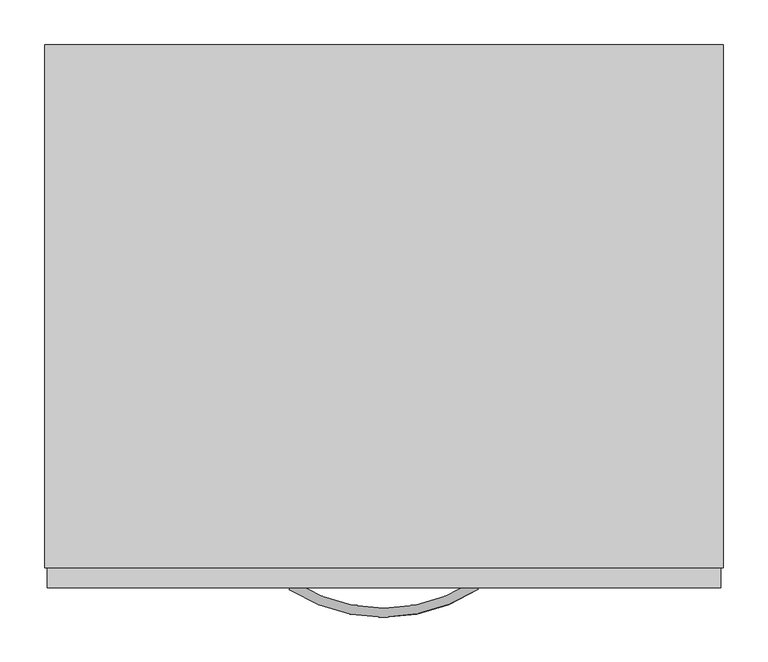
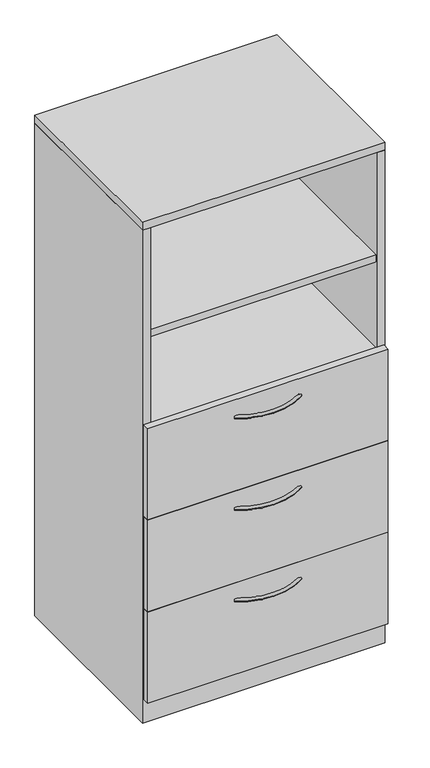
"""IFC4 building model written with IfcOpenShell, lengths in millimetres: furniture geometry, Steelcase - Universal Storage - Cabinet - Combination - Proud Steel : 65 1/2H - Open Cabinet/3 Drawers - 24D x 30W."""

from ifc_helpers import new_model, si_unit, point, frame, origin, place, context, project, spatial, polyline, circle_curve, ellipse_curve, trimmed, outline, extrude, faceted_brep, source, transform, mapped, element, save
from ifc_brep_helpers import plane_surface, revolved_surface, advanced_brep


def furniture_0acd6672(model_context):
    return source(origin(), model_context, "Body", "SolidModel", [
        extrude(outline(polyline([(736.6000242, 104.6479992), (736.6000242, -454.0250121), (25.4000008, -454.0250121), (25.4000008, 104.6479992), (736.6000242, 104.6479992)])), frame((0.0, 0.0, 965.2000242), z_axis=(0.0, 0.0, 1.0), x_axis=(1.0, 0.0, 0.0)), (0.0, 0.0, 1.0), 22.2249516),
        extrude(outline(polyline([(736.6000242, 104.6479992), (736.6000242, -454.0250121), (25.4000008, -454.0250121), (25.4000008, 104.6479992), (736.6000242, 104.6479992)])), frame((0.0, 0.0, 1273.1750484), z_axis=(0.0, 0.0, 1.0), x_axis=(1.0, 0.0, 0.0)), (0.0, 0.0, 1.0), 22.2249516),
        advanced_brep(
        [(274.4245932, -481.5705994, 323.56425), (279.8977519, -473.0108019, 323.56425), (486.7315136, -481.1337636, 323.56425), (481.2231767, -472.5965612, 323.56425)],
        [
            (0, 1, circle_curve(frame((277.1611726, -477.2907007, 323.56425), z_axis=(-0.8424997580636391, 0.5386967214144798, 0.0), x_axis=(0.5386967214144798, 0.8424997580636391, 0.0)), 5.08)),
            (1, 0, circle_curve(frame((277.1611726, -477.2907007, 323.56425), z_axis=(-0.8424997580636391, 0.5386967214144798, 0.0), x_axis=(0.5386967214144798, 0.8424997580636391, 0.0)), 5.08)),
            (2, 3, circle_curve(frame((483.9773452, -476.8651624, 323.56425), z_axis=(0.8402758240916, 0.5421591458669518, 0.0), x_axis=(-0.5421591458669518, 0.8402758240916, 0.0)), 5.08)),
            (3, 2, circle_curve(frame((483.9773452, -476.8651624, 323.56425), z_axis=(0.8402758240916, 0.5421591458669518, 0.0), x_axis=(-0.5421591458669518, 0.8402758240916, 0.0)), 5.08)),
            (3, 1, circle_curve(frame((380.2380004, -316.0827352, 323.56425), z_axis=(0.0, 0.0, -1.0), x_axis=(-0.5386967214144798, -0.8424997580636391, 0.0)), 186.2648211)),
            (0, 2, circle_curve(frame((380.2380004, -316.0827352, 323.56425), z_axis=(0.0, 0.0, 1.0), x_axis=(-0.5386967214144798, -0.8424997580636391, 0.0)), 196.4248211)),
        ],
        [
            plane_surface(frame((277.5794521, -476.6365286, 324.358), z_axis=(-0.8424997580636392, 0.5386967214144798, 0.0), x_axis=(0.0, 0.0, 1.0))),
            plane_surface(frame((483.5563772, -476.2127171, 324.358), z_axis=(0.8402758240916, 0.5421591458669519, 0.0), x_axis=(0.0, 0.0, 1.0))),
            revolved_surface(trimmed(ellipse_curve(frame((277.1611726, -477.2907007, 323.56425), z_axis=(-0.8424997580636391, 0.5386967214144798, 0.0), x_axis=(0.5386967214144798, 0.8424997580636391, 0.0)), 5.08, 5.08), [point((274.4245932, -481.5705994, 323.56425))], [point((279.8977519, -473.0108019, 323.56425))], True, "CARTESIAN"), (380.2380004, -316.0827352, 324.358), (0.0, 0.0, 1.0)),
            revolved_surface(trimmed(ellipse_curve(frame((277.1611726, -477.2907007, 323.56425), z_axis=(-0.8424997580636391, 0.5386967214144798, 0.0), x_axis=(0.5386967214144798, 0.8424997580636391, 0.0)), 5.08, 5.08), [point((279.8977519, -473.0108019, 323.56425))], [point((274.4245932, -481.5705994, 323.56425))], True, "CARTESIAN"), (380.2380004, -316.0827352, 324.358), (0.0, 0.0, 1.0)),
        ],
        [
            (0, [[1, 2]]),
            (1, [[3, 4]]),
            (2, [[5, -1, 6, -4]]),
            (3, [[-6, -2, -5, -3]]),
        ],
    ),
        advanced_brep(
        [(274.4245932, -481.5705994, 627.85625), (279.8977519, -473.0108019, 627.85625), (486.7315136, -481.1337636, 627.85625), (481.2231767, -472.5965612, 627.85625)],
        [
            (0, 1, circle_curve(frame((277.1611726, -477.2907007, 627.85625), z_axis=(-0.8424997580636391, 0.5386967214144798, 0.0), x_axis=(0.5386967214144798, 0.8424997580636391, 0.0)), 5.08)),
            (1, 0, circle_curve(frame((277.1611726, -477.2907007, 627.85625), z_axis=(-0.8424997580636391, 0.5386967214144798, 0.0), x_axis=(0.5386967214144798, 0.8424997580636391, 0.0)), 5.08)),
            (2, 3, circle_curve(frame((483.9773452, -476.8651624, 627.85625), z_axis=(0.8402758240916, 0.5421591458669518, 0.0), x_axis=(-0.5421591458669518, 0.8402758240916, 0.0)), 5.08)),
            (3, 2, circle_curve(frame((483.9773452, -476.8651624, 627.85625), z_axis=(0.8402758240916, 0.5421591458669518, 0.0), x_axis=(-0.5421591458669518, 0.8402758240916, 0.0)), 5.08)),
            (3, 1, circle_curve(frame((380.2380004, -316.0827352, 627.85625), z_axis=(0.0, 0.0, -1.0), x_axis=(-0.5386967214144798, -0.8424997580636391, 0.0)), 186.2648211)),
            (0, 2, circle_curve(frame((380.2380004, -316.0827352, 627.85625), z_axis=(0.0, 0.0, 1.0), x_axis=(-0.5386967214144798, -0.8424997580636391, 0.0)), 196.4248211)),
        ],
        [
            plane_surface(frame((277.5794521, -476.6365286, 628.65), z_axis=(-0.8424997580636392, 0.5386967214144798, 0.0), x_axis=(0.0, 0.0, 1.0))),
            plane_surface(frame((483.5563772, -476.2127171, 628.65), z_axis=(0.8402758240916, 0.5421591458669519, 0.0), x_axis=(0.0, 0.0, 1.0))),
            revolved_surface(trimmed(ellipse_curve(frame((277.1611726, -477.2907007, 627.85625), z_axis=(-0.8424997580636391, 0.5386967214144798, 0.0), x_axis=(0.5386967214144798, 0.8424997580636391, 0.0)), 5.08, 5.08), [point((274.4245932, -481.5705994, 627.85625))], [point((279.8977519, -473.0108019, 627.85625))], True, "CARTESIAN"), (380.2380004, -316.0827352, 628.65), (0.0, 0.0, 1.0)),
            revolved_surface(trimmed(ellipse_curve(frame((277.1611726, -477.2907007, 627.85625), z_axis=(-0.8424997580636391, 0.5386967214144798, 0.0), x_axis=(0.5386967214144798, 0.8424997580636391, 0.0)), 5.08, 5.08), [point((279.8977519, -473.0108019, 627.85625))], [point((274.4245932, -481.5705994, 627.85625))], True, "CARTESIAN"), (380.2380004, -316.0827352, 628.65), (0.0, 0.0, 1.0)),
        ],
        [
            (0, [[1, 2]]),
            (1, [[3, 4]]),
            (2, [[5, -1, 6, -4]]),
            (3, [[-6, -2, -5, -3]]),
        ],
    ),
        extrude(outline(polyline([(758.8225413, -479.552), (3.1725353, -479.552), (3.1725353, -457.3261219), (758.8225413, -457.3261219), (758.8225413, -479.552)])), frame((0.0, 0.0, 687.3240349), z_axis=(0.0, 0.0, 1.0), x_axis=(1.0, 0.0, 0.0)), (0.0, 0.0, 1.0), 303.2759651),
        advanced_brep(
        [(274.4245932, -481.5705994, 932.65625), (279.8977519, -473.0108019, 932.65625), (486.7315136, -481.1337636, 932.65625), (481.2231767, -472.5965612, 932.65625)],
        [
            (0, 1, circle_curve(frame((277.1611726, -477.2907007, 932.65625), z_axis=(-0.8424997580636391, 0.5386967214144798, 0.0), x_axis=(0.5386967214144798, 0.8424997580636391, 0.0)), 5.08)),
            (1, 0, circle_curve(frame((277.1611726, -477.2907007, 932.65625), z_axis=(-0.8424997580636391, 0.5386967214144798, 0.0), x_axis=(0.5386967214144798, 0.8424997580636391, 0.0)), 5.08)),
            (2, 3, circle_curve(frame((483.9773452, -476.8651624, 932.65625), z_axis=(0.8402758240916, 0.5421591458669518, 0.0), x_axis=(-0.5421591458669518, 0.8402758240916, 0.0)), 5.08)),
            (3, 2, circle_curve(frame((483.9773452, -476.8651624, 932.65625), z_axis=(0.8402758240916, 0.5421591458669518, 0.0), x_axis=(-0.5421591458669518, 0.8402758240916, 0.0)), 5.08)),
            (3, 1, circle_curve(frame((380.2380004, -316.0827352, 932.65625), z_axis=(0.0, 0.0, -1.0), x_axis=(-0.5386967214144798, -0.8424997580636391, 0.0)), 186.2648211)),
            (0, 2, circle_curve(frame((380.2380004, -316.0827352, 932.65625), z_axis=(0.0, 0.0, 1.0), x_axis=(-0.5386967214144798, -0.8424997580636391, 0.0)), 196.4248211)),
        ],
        [
            plane_surface(frame((277.5794521, -476.6365286, 933.45), z_axis=(-0.8424997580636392, 0.5386967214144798, 0.0), x_axis=(0.0, 0.0, 1.0))),
            plane_surface(frame((483.5563772, -476.2127171, 933.45), z_axis=(0.8402758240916, 0.5421591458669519, 0.0), x_axis=(0.0, 0.0, 1.0))),
            revolved_surface(trimmed(ellipse_curve(frame((277.1611726, -477.2907007, 932.65625), z_axis=(-0.8424997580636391, 0.5386967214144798, 0.0), x_axis=(0.5386967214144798, 0.8424997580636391, 0.0)), 5.08, 5.08), [point((274.4245932, -481.5705994, 932.65625))], [point((279.8977519, -473.0108019, 932.65625))], True, "CARTESIAN"), (380.2380004, -316.0827352, 933.45), (0.0, 0.0, 1.0)),
            revolved_surface(trimmed(ellipse_curve(frame((277.1611726, -477.2907007, 932.65625), z_axis=(-0.8424997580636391, 0.5386967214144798, 0.0), x_axis=(0.5386967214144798, 0.8424997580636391, 0.0)), 5.08, 5.08), [point((279.8977519, -473.0108019, 932.65625))], [point((274.4245932, -481.5705994, 932.65625))], True, "CARTESIAN"), (380.2380004, -316.0827352, 933.45), (0.0, 0.0, 1.0)),
        ],
        [
            (0, [[1, 2]]),
            (1, [[3, 4]]),
            (2, [[5, -1, 6, -4]]),
            (3, [[-6, -2, -5, -3]]),
        ],
    ),
        faceted_brep([(25.4000008, -457.3261219, 76.2), (736.6000242, -457.3261219, 76.2), (736.6000242, 104.6479992, 76.2), (25.4000008, 104.6479992, 76.2), (762.0, 130.048, 0.0), (762.0, -457.3261219, 0.0), (0.0, -457.3261219, 0.0), (0.0, 130.048, 0.0), (0.0, 130.048, 1636.776), (762.0, 130.048, 1636.776), (0.0, -457.3261219, 1636.776), (762.0, -457.3261219, 1636.776), (736.6000242, -457.3261219, 1636.776), (25.4000008, -457.3261219, 1636.776), (736.6000242, 104.6479992, 1636.776), (25.4000008, 104.6479992, 1636.776)], [[[0, 1, 2, 3]], [[4, 5, 6, 7]], [[4, 7, 8, 9]], [[8, 7, 6, 10]], [[10, 6, 5, 11, 12, 1, 0, 13]], [[11, 5, 4, 9]], [[14, 12, 11, 9, 8, 10, 13, 15]], [[12, 14, 2, 1]], [[15, 13, 0, 3]], [[14, 15, 3, 2]]]),
        extrude(outline(polyline([(758.8225413, -479.552), (3.1725353, -479.552), (3.1725353, -457.3261219), (758.8225413, -457.3261219), (758.8225413, -479.552)])), frame((0.0, 0.0, 77.724), z_axis=(0.0, 0.0, 1.0), x_axis=(1.0, 0.0, 0.0)), (0.0, 0.0, 1.0), 303.276),
        extrude(outline(polyline([(758.8225413, -479.552), (3.1725353, -479.552), (3.1725353, -457.3261219), (758.8225413, -457.3261219), (758.8225413, -479.552)])), frame((0.0, 0.0, 382.524), z_axis=(0.0, 0.0, 1.0), x_axis=(1.0, 0.0, 0.0)), (0.0, 0.0, 1.0), 303.276),
        extrude(outline(polyline([(762.0, 130.048), (762.0, -457.3261219), (0.0, -457.3261219), (0.0, 130.048), (762.0, 130.048)])), frame((0.0, 0.0, 1638.2999516), z_axis=(0.0, 0.0, 1.0), x_axis=(1.0, 0.0, 0.0)), (0.0, 0.0, 1.0), 25.4000484),
    ])


if __name__ == "__main__":
    model = new_model("IFC4")
    model_context = context("Model", 3, world=origin())
    ifc_project = project(units=[si_unit("LENGTHUNIT", "METRE", prefix="MILLI")], contexts=[model_context])
    site = spatial("IfcSite", under=ifc_project)
    building = spatial("IfcBuilding", under=site)
    placement = place(None, origin())
    furniture_shape = furniture_0acd6672(model_context)
    element("IfcFurniture", 1, ObjectType="Steelcase - Universal Storage - Cabinet - Combination - Proud Steel : 65 1/2H - Open Cabinet/3 Drawers - 24D x 30W", at=placement, inside=building, context=model_context, shape_type="MappedRepresentation", body=[
        mapped(furniture_shape, transform((0.0, 0.0, 0.0), x_axis=(1.0, 0.0, 0.0), y_axis=(0.0, 1.0, 0.0), z_axis=(0.0, 0.0, 1.0))),
    ])
    save(model, "model.ifc")
